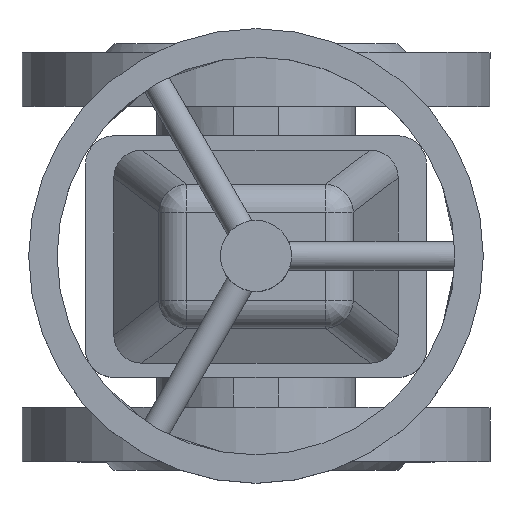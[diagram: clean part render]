
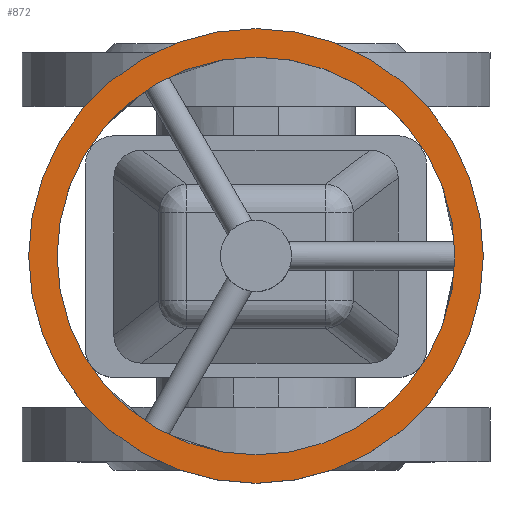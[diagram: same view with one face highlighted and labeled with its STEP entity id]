
A CAD part, top view. The second image highlights one B-rep face of the part: STEP entity #872.
In plain terms, the highlighted planar face has unit normal (0, 0, 1).
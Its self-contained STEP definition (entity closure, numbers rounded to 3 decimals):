
#872=ADVANCED_FACE('',(#1906,#1908),#1910,.T.);
#1906=FACE_BOUND('',#1907,.T.);
#1907=EDGE_LOOP('',(#2351));
#1908=FACE_BOUND('',#1909,.T.);
#1909=EDGE_LOOP('',(#2352));
#1910=PLANE('',#1911);
#1911=AXIS2_PLACEMENT_3D('',#1912,#1913,#1914);
#1912=CARTESIAN_POINT('',(0.,0.,237.5));
#1913=DIRECTION('',(0.,0.,1.));
#1914=DIRECTION('',(0.,-1.,0.));
#2351=ORIENTED_EDGE('',*,*,#2567,.T.);
#2352=ORIENTED_EDGE('',*,*,#2565,.T.);
#2565=EDGE_CURVE('',#2921,#2921,#2922,.F.);
#2567=EDGE_CURVE('',#2925,#2925,#2926,.T.);
#2921=VERTEX_POINT('',#4503);
#2922=CIRCLE('',#4504,70.);
#2925=VERTEX_POINT('',#4513);
#2926=CIRCLE('',#4514,80.);
#4503=CARTESIAN_POINT('',(0.,-70.,237.5));
#4504=AXIS2_PLACEMENT_3D('',#4505,#4506,#4507);
#4505=CARTESIAN_POINT('',(0.,0.,237.5));
#4506=DIRECTION('',(0.,0.,1.));
#4507=DIRECTION('',(0.,-1.,0.));
#4513=CARTESIAN_POINT('',(0.,-80.,237.5));
#4514=AXIS2_PLACEMENT_3D('',#4515,#4516,#4517);
#4515=CARTESIAN_POINT('',(0.,0.,237.5));
#4516=DIRECTION('',(0.,0.,1.));
#4517=DIRECTION('',(0.,-1.,0.));
